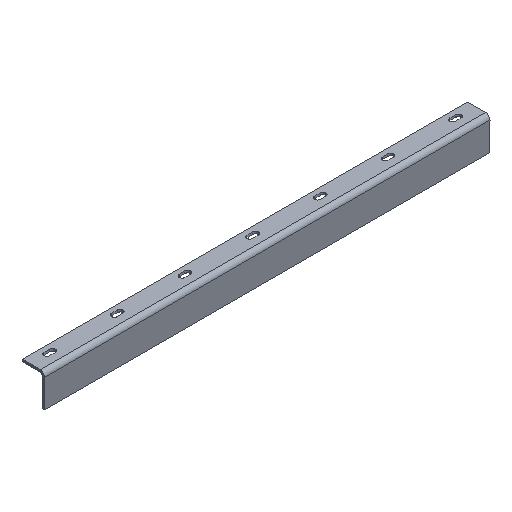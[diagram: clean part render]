
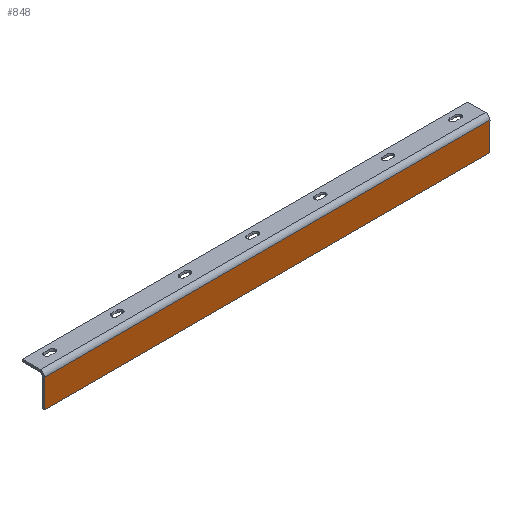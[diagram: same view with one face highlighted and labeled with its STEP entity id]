
A CAD part, isometric view. The second image highlights one B-rep face of the part: STEP entity #848.
In plain terms, the highlighted planar face has unit normal (0, -1, 0).
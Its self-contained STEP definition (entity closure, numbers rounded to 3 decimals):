
#55 = VERTEX_POINT ( 'NONE', #1063 ) ;
#111 = CARTESIAN_POINT ( 'NONE',  ( 197.5, 0., -4. ) ) ;
#127 = LINE ( 'NONE', #354, #574 ) ;
#150 = VECTOR ( 'NONE', #164, 1000. ) ;
#164 = DIRECTION ( 'NONE',  ( 0., 0., -1. ) ) ;
#203 = DIRECTION ( 'NONE',  ( 0., 0., 1. ) ) ;
#283 = CARTESIAN_POINT ( 'NONE',  ( -197.5, 0., 0. ) ) ;
#346 = CARTESIAN_POINT ( 'NONE',  ( 197.5, 0., -29. ) ) ;
#354 = CARTESIAN_POINT ( 'NONE',  ( 197.5, 0., -4. ) ) ;
#516 = EDGE_CURVE ( 'NONE', #580, #1378, #957, .T. ) ;
#529 = EDGE_LOOP ( 'NONE', ( #573, #985, #1064, #1365 ) ) ;
#570 = EDGE_CURVE ( 'NONE', #55, #672, #947, .T. ) ;
#573 = ORIENTED_EDGE ( 'NONE', *, *, #570, .T. ) ;
#574 = VECTOR ( 'NONE', #1349, 1000. ) ;
#580 = VERTEX_POINT ( 'NONE', #111 ) ;
#657 = AXIS2_PLACEMENT_3D ( 'NONE', #891, #1297, #203 ) ;
#669 = DIRECTION ( 'NONE',  ( 0., 0., -1. ) ) ;
#672 = VERTEX_POINT ( 'NONE', #799 ) ;
#708 = DIRECTION ( 'NONE',  ( -1., 0., 0. ) ) ;
#725 = CARTESIAN_POINT ( 'NONE',  ( 197.5, 0., 0. ) ) ;
#783 = EDGE_CURVE ( 'NONE', #1378, #672, #1263, .T. ) ;
#799 = CARTESIAN_POINT ( 'NONE',  ( -197.5, 0., -29. ) ) ;
#848 = ADVANCED_FACE ( 'NONE', ( #1087 ), #1197, .F. ) ;
#891 = CARTESIAN_POINT ( 'NONE',  ( 197.5, 0., 0. ) ) ;
#947 = LINE ( 'NONE', #283, #1184 ) ;
#957 = LINE ( 'NONE', #725, #150 ) ;
#985 = ORIENTED_EDGE ( 'NONE', *, *, #783, .F. ) ;
#1050 = EDGE_CURVE ( 'NONE', #580, #55, #127, .T. ) ;
#1063 = CARTESIAN_POINT ( 'NONE',  ( -197.5, 0., -4. ) ) ;
#1064 = ORIENTED_EDGE ( 'NONE', *, *, #516, .F. ) ;
#1087 = FACE_OUTER_BOUND ( 'NONE', #529, .T. ) ;
#1184 = VECTOR ( 'NONE', #669, 1000. ) ;
#1197 = PLANE ( 'NONE',  #657 ) ;
#1243 = CARTESIAN_POINT ( 'NONE',  ( 197.5, 0., -29. ) ) ;
#1263 = LINE ( 'NONE', #1243, #1323 ) ;
#1297 = DIRECTION ( 'NONE',  ( 0., 1., 0. ) ) ;
#1323 = VECTOR ( 'NONE', #708, 1000. ) ;
#1349 = DIRECTION ( 'NONE',  ( -1., 0., 0. ) ) ;
#1365 = ORIENTED_EDGE ( 'NONE', *, *, #1050, .T. ) ;
#1378 = VERTEX_POINT ( 'NONE', #346 ) ;
